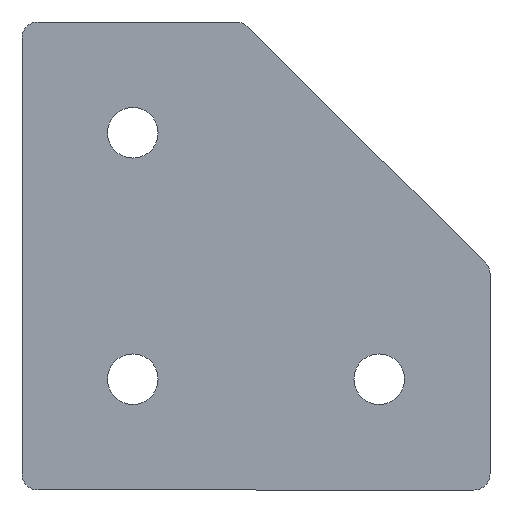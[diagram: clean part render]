
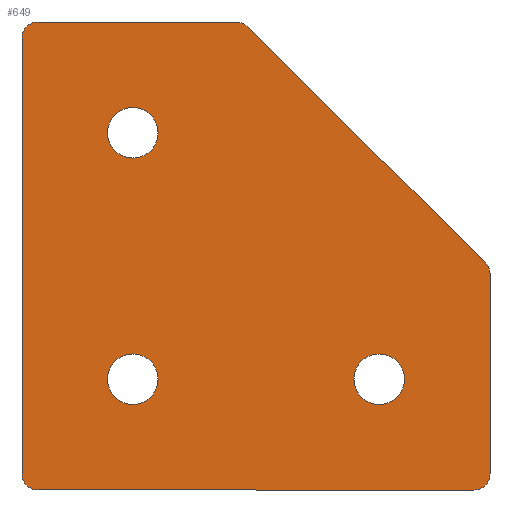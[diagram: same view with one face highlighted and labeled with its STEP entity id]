
A CAD part, front view. The second image highlights one B-rep face of the part: STEP entity #649.
In plain terms, the highlighted planar face has unit normal (0, -1, 0).
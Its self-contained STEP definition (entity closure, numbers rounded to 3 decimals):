
#7 = DIRECTION ( 'NONE',  ( 0., 0., 1. ) ) ;
#10 = VERTEX_POINT ( 'NONE', #295 ) ;
#23 = AXIS2_PLACEMENT_3D ( 'NONE', #202, #571, #249 ) ;
#24 = DIRECTION ( 'NONE',  ( 0., 0., 1. ) ) ;
#29 = FACE_BOUND ( 'NONE', #161, .T. ) ;
#39 = AXIS2_PLACEMENT_3D ( 'NONE', #102, #458, #153 ) ;
#40 = AXIS2_PLACEMENT_3D ( 'NONE', #631, #362, #66 ) ;
#44 = EDGE_CURVE ( 'NONE', #276, #272, #129, .T. ) ;
#57 = LINE ( 'NONE', #531, #423 ) ;
#64 = CARTESIAN_POINT ( 'NONE',  ( -25.187, 0., 42.811 ) ) ;
#66 = DIRECTION ( 'NONE',  ( 0., 0., -1. ) ) ;
#70 = CARTESIAN_POINT ( 'NONE',  ( -57.36, 0., -27.989 ) ) ;
#87 = AXIS2_PLACEMENT_3D ( 'NONE', #595, #305, #7 ) ;
#102 = CARTESIAN_POINT ( 'NONE',  ( -41.96, 0., 27.411 ) ) ;
#108 = DIRECTION ( 'NONE',  ( 0., 0., -1. ) ) ;
#109 = VECTOR ( 'NONE', #315, 1000. ) ;
#118 = DIRECTION ( 'NONE',  ( 0., 0., -1. ) ) ;
#122 = CARTESIAN_POINT ( 'NONE',  ( -57.36, 0., 42.811 ) ) ;
#124 = CARTESIAN_POINT ( 'NONE',  ( 13.44, 0., -27.989 ) ) ;
#126 = ORIENTED_EDGE ( 'NONE', *, *, #391, .F. ) ;
#128 = VECTOR ( 'NONE', #512, 1000. ) ;
#129 = CIRCLE ( 'NONE', #507, 4.1 ) ;
#132 = VERTEX_POINT ( 'NONE', #331 ) ;
#134 = CARTESIAN_POINT ( 'NONE',  ( -41.96, 0., -16.689 ) ) ;
#135 = AXIS2_PLACEMENT_3D ( 'NONE', #609, #288, #659 ) ;
#136 = CARTESIAN_POINT ( 'NONE',  ( 16.04, 0., -27.989 ) ) ;
#139 = ORIENTED_EDGE ( 'NONE', *, *, #444, .T. ) ;
#142 = AXIS2_PLACEMENT_3D ( 'NONE', #70, #418, #118 ) ;
#143 = ORIENTED_EDGE ( 'NONE', *, *, #527, .F. ) ;
#145 = ORIENTED_EDGE ( 'NONE', *, *, #562, .F. ) ;
#153 = DIRECTION ( 'NONE',  ( 0., 0., 1. ) ) ;
#154 = CARTESIAN_POINT ( 'NONE',  ( 16.04, 0., 4.506 ) ) ;
#159 = VERTEX_POINT ( 'NONE', #485 ) ;
#161 = EDGE_LOOP ( 'NONE', ( #535, #304 ) ) ;
#169 = DIRECTION ( 'NONE',  ( 0., 0., -1. ) ) ;
#170 = EDGE_LOOP ( 'NONE', ( #322, #139 ) ) ;
#173 = DIRECTION ( 'NONE',  ( 0., 0., 1. ) ) ;
#174 = FACE_BOUND ( 'NONE', #546, .T. ) ;
#175 = DIRECTION ( 'NONE',  ( 0., 0., -1. ) ) ;
#185 = ORIENTED_EDGE ( 'NONE', *, *, #560, .F. ) ;
#189 = VERTEX_POINT ( 'NONE', #630 ) ;
#202 = CARTESIAN_POINT ( 'NONE',  ( -41.96, 0., -12.589 ) ) ;
#213 = CIRCLE ( 'NONE', #39, 4.1 ) ;
#217 = CARTESIAN_POINT ( 'NONE',  ( -41.96, 0., 23.311 ) ) ;
#233 = AXIS2_PLACEMENT_3D ( 'NONE', #124, #480, #175 ) ;
#238 = LINE ( 'NONE', #626, #109 ) ;
#247 = CARTESIAN_POINT ( 'NONE',  ( -41.96, 0., 27.411 ) ) ;
#249 = DIRECTION ( 'NONE',  ( 0., 0., 1. ) ) ;
#252 = VERTEX_POINT ( 'NONE', #494 ) ;
#255 = LINE ( 'NONE', #266, #499 ) ;
#258 = CARTESIAN_POINT ( 'NONE',  ( 15.27, 0., 6.353 ) ) ;
#264 = CARTESIAN_POINT ( 'NONE',  ( -41.96, 0., -12.589 ) ) ;
#266 = CARTESIAN_POINT ( 'NONE',  ( 15.27, 0., 6.353 ) ) ;
#269 = CARTESIAN_POINT ( 'NONE',  ( -25.187, 0., 45.411 ) ) ;
#271 = EDGE_CURVE ( 'NONE', #132, #385, #502, .T. ) ;
#272 = VERTEX_POINT ( 'NONE', #431 ) ;
#276 = VERTEX_POINT ( 'NONE', #134 ) ;
#282 = VERTEX_POINT ( 'NONE', #136 ) ;
#284 = CARTESIAN_POINT ( 'NONE',  ( -59.96, 0., -27.989 ) ) ;
#288 = DIRECTION ( 'NONE',  ( 0., 1., 0. ) ) ;
#293 = AXIS2_PLACEMENT_3D ( 'NONE', #247, #623, #306 ) ;
#295 = CARTESIAN_POINT ( 'NONE',  ( -23.356, 0., 44.657 ) ) ;
#298 = EDGE_CURVE ( 'NONE', #282, #159, #617, .T. ) ;
#303 = FACE_OUTER_BOUND ( 'NONE', #543, .T. ) ;
#304 = ORIENTED_EDGE ( 'NONE', *, *, #410, .T. ) ;
#305 = DIRECTION ( 'NONE',  ( 0., 1., 0. ) ) ;
#306 = DIRECTION ( 'NONE',  ( 0., 0., 1. ) ) ;
#315 = DIRECTION ( 'NONE',  ( 1., 0., 0. ) ) ;
#317 = DIRECTION ( 'NONE',  ( 0., 0., 1. ) ) ;
#318 = EDGE_CURVE ( 'NONE', #327, #252, #213, .T. ) ;
#320 = CIRCLE ( 'NONE', #87, 2.6 ) ;
#322 = ORIENTED_EDGE ( 'NONE', *, *, #318, .T. ) ;
#325 = DIRECTION ( 'NONE',  ( 0., 1., 0. ) ) ;
#327 = VERTEX_POINT ( 'NONE', #217 ) ;
#331 = CARTESIAN_POINT ( 'NONE',  ( -1.96, 0., -16.689 ) ) ;
#335 = EDGE_CURVE ( 'NONE', #159, #402, #516, .T. ) ;
#339 = CARTESIAN_POINT ( 'NONE',  ( -1.96, 0., -8.489 ) ) ;
#341 = ORIENTED_EDGE ( 'NONE', *, *, #387, .F. ) ;
#359 = CIRCLE ( 'NONE', #142, 2.6 ) ;
#362 = DIRECTION ( 'NONE',  ( 0., -1., 0. ) ) ;
#364 = VERTEX_POINT ( 'NONE', #656 ) ;
#376 = VERTEX_POINT ( 'NONE', #284 ) ;
#379 = VECTOR ( 'NONE', #511, 1000. ) ;
#384 = EDGE_CURVE ( 'NONE', #385, #132, #467, .T. ) ;
#385 = VERTEX_POINT ( 'NONE', #339 ) ;
#387 = EDGE_CURVE ( 'NONE', #189, #364, #445, .T. ) ;
#391 = EDGE_CURVE ( 'NONE', #648, #526, #320, .T. ) ;
#399 = CARTESIAN_POINT ( 'NONE',  ( -57.36, 0., -30.589 ) ) ;
#402 = VERTEX_POINT ( 'NONE', #399 ) ;
#403 = FACE_BOUND ( 'NONE', #170, .T. ) ;
#407 = DIRECTION ( 'NONE',  ( 0., 1., 0. ) ) ;
#410 = EDGE_CURVE ( 'NONE', #272, #276, #491, .T. ) ;
#412 = ORIENTED_EDGE ( 'NONE', *, *, #335, .F. ) ;
#418 = DIRECTION ( 'NONE',  ( 0., 1., 0. ) ) ;
#423 = VECTOR ( 'NONE', #169, 1000. ) ;
#431 = CARTESIAN_POINT ( 'NONE',  ( -41.96, 0., -8.489 ) ) ;
#444 = EDGE_CURVE ( 'NONE', #252, #327, #471, .T. ) ;
#445 = CIRCLE ( 'NONE', #658, 2.6 ) ;
#458 = DIRECTION ( 'NONE',  ( 0., 1., 0. ) ) ;
#460 = CARTESIAN_POINT ( 'NONE',  ( -59.96, 0., 42.811 ) ) ;
#462 = PLANE ( 'NONE',  #40 ) ;
#467 = CIRCLE ( 'NONE', #586, 4.1 ) ;
#471 = CIRCLE ( 'NONE', #293, 4.1 ) ;
#476 = ORIENTED_EDGE ( 'NONE', *, *, #384, .T. ) ;
#477 = DIRECTION ( 'NONE',  ( 0., 1., 0. ) ) ;
#480 = DIRECTION ( 'NONE',  ( 0., 1., 0. ) ) ;
#485 = CARTESIAN_POINT ( 'NONE',  ( 13.44, 0., -30.589 ) ) ;
#491 = CIRCLE ( 'NONE', #23, 4.1 ) ;
#494 = CARTESIAN_POINT ( 'NONE',  ( -41.96, 0., 31.511 ) ) ;
#495 = EDGE_CURVE ( 'NONE', #376, #189, #540, .T. ) ;
#498 = ORIENTED_EDGE ( 'NONE', *, *, #495, .F. ) ;
#499 = VECTOR ( 'NONE', #583, 1000. ) ;
#502 = CIRCLE ( 'NONE', #135, 4.1 ) ;
#507 = AXIS2_PLACEMENT_3D ( 'NONE', #264, #636, #317 ) ;
#511 = DIRECTION ( 'NONE',  ( -1., 0., 0. ) ) ;
#512 = DIRECTION ( 'NONE',  ( 0., 0., 1. ) ) ;
#516 = LINE ( 'NONE', #574, #379 ) ;
#523 = AXIS2_PLACEMENT_3D ( 'NONE', #64, #407, #108 ) ;
#526 = VERTEX_POINT ( 'NONE', #154 ) ;
#527 = EDGE_CURVE ( 'NONE', #364, #619, #238, .T. ) ;
#531 = CARTESIAN_POINT ( 'NONE',  ( 16.04, 0., -27.989 ) ) ;
#535 = ORIENTED_EDGE ( 'NONE', *, *, #44, .T. ) ;
#540 = LINE ( 'NONE', #460, #128 ) ;
#543 = EDGE_LOOP ( 'NONE', ( #594, #143, #341, #498, #145, #412, #657, #589, #126, #185 ) ) ;
#544 = ORIENTED_EDGE ( 'NONE', *, *, #271, .T. ) ;
#546 = EDGE_LOOP ( 'NONE', ( #544, #476 ) ) ;
#560 = EDGE_CURVE ( 'NONE', #10, #648, #255, .T. ) ;
#562 = EDGE_CURVE ( 'NONE', #402, #376, #359, .T. ) ;
#568 = CIRCLE ( 'NONE', #523, 2.6 ) ;
#571 = DIRECTION ( 'NONE',  ( 0., 1., 0. ) ) ;
#574 = CARTESIAN_POINT ( 'NONE',  ( 13.44, 0., -30.589 ) ) ;
#583 = DIRECTION ( 'NONE',  ( 0.71, 0., -0.704 ) ) ;
#586 = AXIS2_PLACEMENT_3D ( 'NONE', #643, #325, #24 ) ;
#589 = ORIENTED_EDGE ( 'NONE', *, *, #642, .F. ) ;
#594 = ORIENTED_EDGE ( 'NONE', *, *, #640, .F. ) ;
#595 = CARTESIAN_POINT ( 'NONE',  ( 13.44, 0., 4.506 ) ) ;
#609 = CARTESIAN_POINT ( 'NONE',  ( -1.96, 0., -12.589 ) ) ;
#617 = CIRCLE ( 'NONE', #233, 2.6 ) ;
#619 = VERTEX_POINT ( 'NONE', #269 ) ;
#623 = DIRECTION ( 'NONE',  ( 0., 1., 0. ) ) ;
#626 = CARTESIAN_POINT ( 'NONE',  ( -25.187, 0., 45.411 ) ) ;
#630 = CARTESIAN_POINT ( 'NONE',  ( -59.96, 0., 42.811 ) ) ;
#631 = CARTESIAN_POINT ( 'NONE',  ( -25.187, 0., 42.811 ) ) ;
#636 = DIRECTION ( 'NONE',  ( 0., 1., 0. ) ) ;
#640 = EDGE_CURVE ( 'NONE', #619, #10, #568, .T. ) ;
#642 = EDGE_CURVE ( 'NONE', #526, #282, #57, .T. ) ;
#643 = CARTESIAN_POINT ( 'NONE',  ( -1.96, 0., -12.589 ) ) ;
#648 = VERTEX_POINT ( 'NONE', #258 ) ;
#649 = ADVANCED_FACE ( 'NONE', ( #403, #303, #29, #174 ), #462, .T. ) ;
#656 = CARTESIAN_POINT ( 'NONE',  ( -57.36, 0., 45.411 ) ) ;
#657 = ORIENTED_EDGE ( 'NONE', *, *, #298, .F. ) ;
#658 = AXIS2_PLACEMENT_3D ( 'NONE', #122, #477, #173 ) ;
#659 = DIRECTION ( 'NONE',  ( 0., 0., 1. ) ) ;
